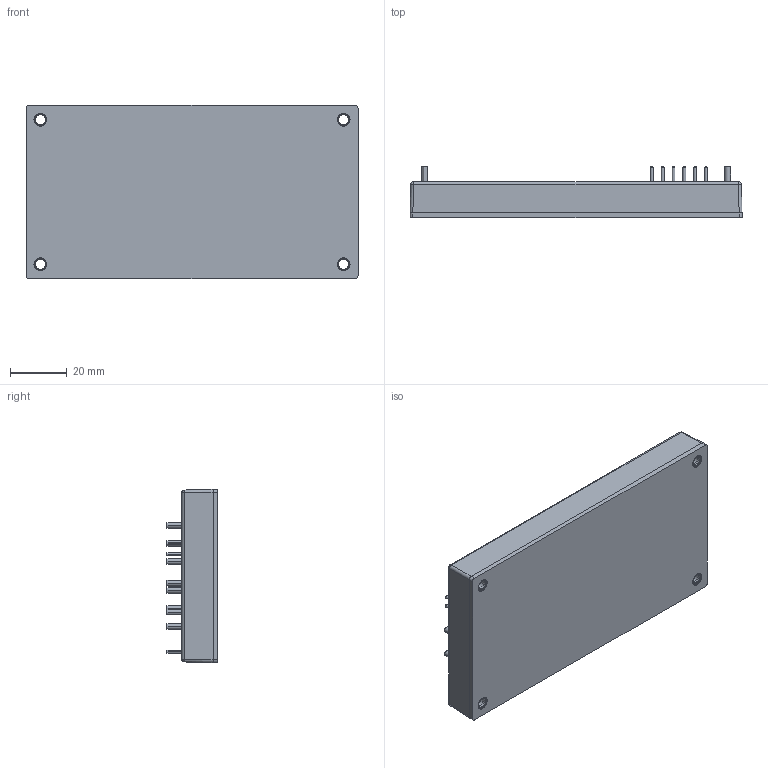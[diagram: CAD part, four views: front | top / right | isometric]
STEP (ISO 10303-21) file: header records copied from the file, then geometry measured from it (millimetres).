
FILE_DESCRIPTION (( 'STEP AP214' ), '1' );
FILE_NAME ('QSB400 Through hole.STEP', '2021-09-01T14:40:54', ( '' ), ( '' ), 'SwSTEP 2.0', 'SolidWorks 2020', '' );
FILE_SCHEMA (( 'AUTOMOTIVE_DESIGN' ));
Length unit declared in the file: inch
Products named in the file (5): QSB400 Through hole; QSB400 Baseplate PCB Pins; QSB400 Case; Insert; QSB400 plug
Assembly tree (7 placements, depth 2):
  QSB400 Through hole
    QSB400 Case
    QSB400 Baseplate PCB Pins
    Insert  x4
    QSB400 plug
Bounding box: 116.8 x 18.2 x 61 mm (x, y, z)
Volume: 90371.7 mm3; surface area: 65283.9 mm2
Topology: 24 solids, 24 shells, 1313 faces, 3281 edges, 2102 vertices
Faces by surface type: plane 697, cylinder 254, bspline 192, cone 170
Entity records: 54705 total; most frequent: CARTESIAN_POINT 17105, ORIENTED_EDGE 5194, DIRECTION 4265, EDGE_CURVE 2597, VECTOR 1723, LINE 1723, VERTEX_POINT 1688, AXIS2_PLACEMENT_3D 1271
